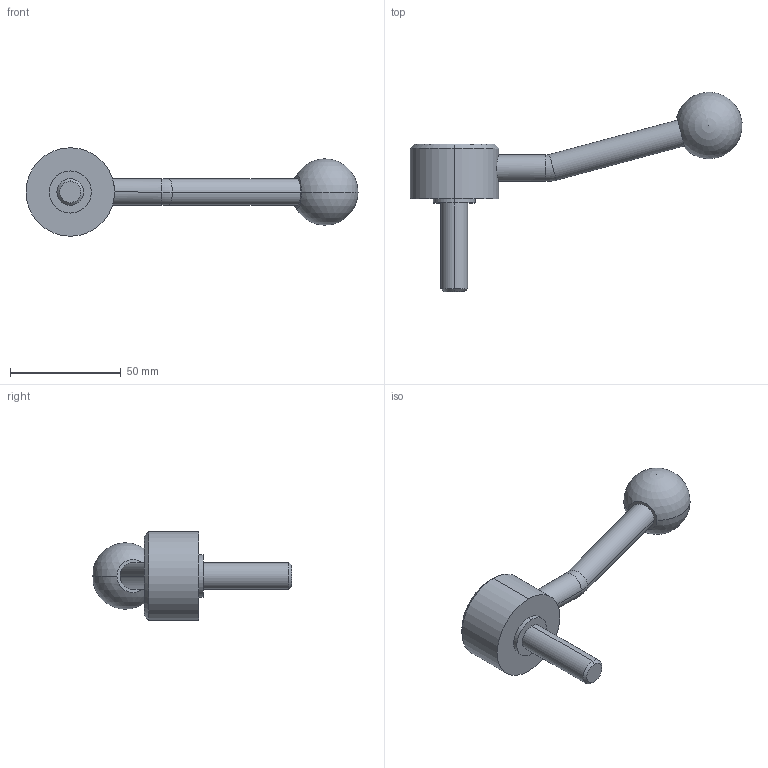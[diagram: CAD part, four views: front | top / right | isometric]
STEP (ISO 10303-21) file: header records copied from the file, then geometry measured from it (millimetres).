
FILE_DESCRIPTION (( 'STEP AP214' ), '1' );
FILE_NAME ('125.5-40-M12-40-E.step', '2020-02-18T11:37:37', ( '' ), ( '' ), 'SwSTEP 2.0', 'SolidWorks 2019', '' );
FILE_SCHEMA (( 'AUTOMOTIVE_DESIGN' ));
Length unit declared in the file: millimetre
Products named in the file (1): 125.5-40-M12-40-E
Bounding box: 149.94 x 89.94 x 40 mm (x, y, z)
Volume: 59271.7 mm3; surface area: 12843.1 mm2
Topology: 1 solids, 1 shells, 26 faces, 55 edges, 34 vertices
Faces by surface type: cylinder 12, plane 6, cone 4, torus 2, sphere 2
Entity records: 850 total; most frequent: CARTESIAN_POINT 192, DIRECTION 134, ORIENTED_EDGE 100, AXIS2_PLACEMENT_3D 59, EDGE_CURVE 50, CIRCLE 32, EDGE_LOOP 31, VERTEX_POINT 31
